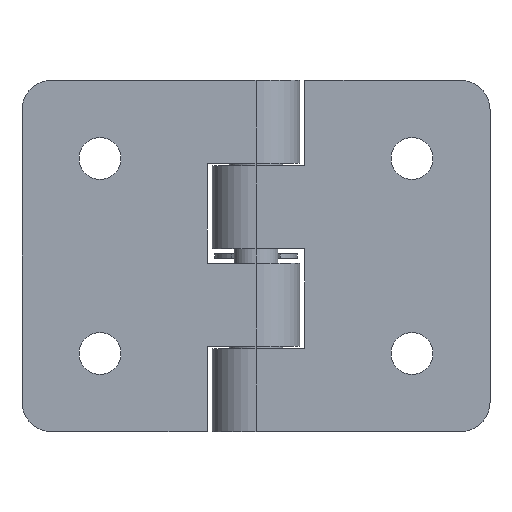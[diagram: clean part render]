
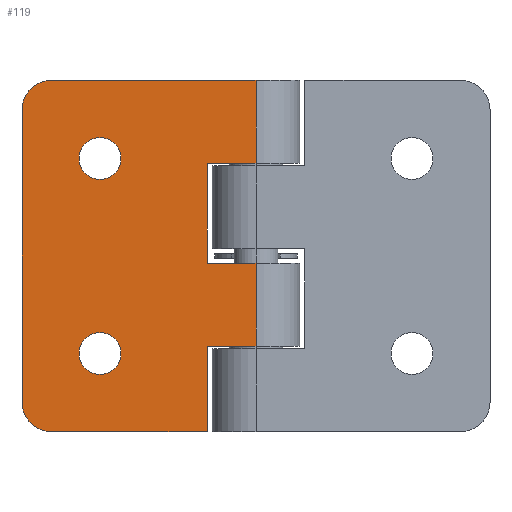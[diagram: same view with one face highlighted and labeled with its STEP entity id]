
A CAD part, front view. The second image highlights one B-rep face of the part: STEP entity #119.
In plain terms, the highlighted planar face has unit normal (0, -1, 0).
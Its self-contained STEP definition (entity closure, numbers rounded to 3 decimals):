
#16 = CARTESIAN_POINT ( 'NONE',  ( 0., -4.5, -9.25 ) ) ;
#18 = VERTEX_POINT ( 'NONE', #1898 ) ;
#19 = VERTEX_POINT ( 'NONE', #29 ) ;
#29 = CARTESIAN_POINT ( 'NONE',  ( -16., -4.5, 7.85 ) ) ;
#35 = DIRECTION ( 'NONE',  ( 0., -1., 0. ) ) ;
#43 = ORIENTED_EDGE ( 'NONE', *, *, #1346, .T. ) ;
#60 = EDGE_CURVE ( 'NONE', #404, #575, #1383, .T. ) ;
#62 = VERTEX_POINT ( 'NONE', #497 ) ;
#82 = VECTOR ( 'NONE', #399, 1000. ) ;
#90 = FACE_OUTER_BOUND ( 'NONE', #1001, .T. ) ;
#94 = DIRECTION ( 'NONE',  ( 0., 0., 1. ) ) ;
#108 = CARTESIAN_POINT ( 'NONE',  ( -5., -4.5, 0. ) ) ;
#111 = VERTEX_POINT ( 'NONE', #662 ) ;
#119 = ADVANCED_FACE ( 'NONE', ( #1735, #1278, #90 ), #1734, .T. ) ;
#136 = DIRECTION ( 'NONE',  ( 0., 1., 0. ) ) ;
#137 = VECTOR ( 'NONE', #269, 1000. ) ;
#143 = AXIS2_PLACEMENT_3D ( 'NONE', #667, #35, #1127 ) ;
#166 = CARTESIAN_POINT ( 'NONE',  ( 0., -4.5, -18. ) ) ;
#170 = VERTEX_POINT ( 'NONE', #1563 ) ;
#183 = EDGE_LOOP ( 'NONE', ( #43, #1233 ) ) ;
#189 = VERTEX_POINT ( 'NONE', #797 ) ;
#199 = EDGE_CURVE ( 'NONE', #189, #1315, #365, .T. ) ;
#203 = AXIS2_PLACEMENT_3D ( 'NONE', #1944, #1031, #94 ) ;
#208 = ORIENTED_EDGE ( 'NONE', *, *, #1294, .F. ) ;
#239 = VECTOR ( 'NONE', #1729, 1000. ) ;
#251 = CARTESIAN_POINT ( 'NONE',  ( 0., -4.5, -0.75 ) ) ;
#269 = DIRECTION ( 'NONE',  ( 1., 0., 0. ) ) ;
#273 = DIRECTION ( 'NONE',  ( 1., 0., 0. ) ) ;
#329 = ORIENTED_EDGE ( 'NONE', *, *, #680, .F. ) ;
#336 = DIRECTION ( 'NONE',  ( 1., 0., 0. ) ) ;
#363 = ORIENTED_EDGE ( 'NONE', *, *, #528, .T. ) ;
#365 = LINE ( 'NONE', #16, #729 ) ;
#368 = EDGE_CURVE ( 'NONE', #19, #111, #1447, .T. ) ;
#392 = CARTESIAN_POINT ( 'NONE',  ( 0., -4.5, -0.75 ) ) ;
#395 = CARTESIAN_POINT ( 'NONE',  ( -24., -4.5, 18. ) ) ;
#397 = LINE ( 'NONE', #580, #1226 ) ;
#399 = DIRECTION ( 'NONE',  ( 0., 0., -1. ) ) ;
#404 = VERTEX_POINT ( 'NONE', #1485 ) ;
#447 = LINE ( 'NONE', #610, #764 ) ;
#451 = DIRECTION ( 'NONE',  ( 0., 0., -1. ) ) ;
#479 = DIRECTION ( 'NONE',  ( -1., 0., 0. ) ) ;
#497 = CARTESIAN_POINT ( 'NONE',  ( -24., -4.5, -15. ) ) ;
#504 = CARTESIAN_POINT ( 'NONE',  ( 0., -4.5, 18. ) ) ;
#528 = EDGE_CURVE ( 'NONE', #18, #893, #810, .T. ) ;
#560 = CIRCLE ( 'NONE', #748, 2.15 ) ;
#575 = VERTEX_POINT ( 'NONE', #1843 ) ;
#580 = CARTESIAN_POINT ( 'NONE',  ( -5., -4.5, 0. ) ) ;
#610 = CARTESIAN_POINT ( 'NONE',  ( 0., -4.5, 18. ) ) ;
#619 = DIRECTION ( 'NONE',  ( -1., 0., 0. ) ) ;
#662 = CARTESIAN_POINT ( 'NONE',  ( -16., -4.5, 12.15 ) ) ;
#665 = VERTEX_POINT ( 'NONE', #1702 ) ;
#667 = CARTESIAN_POINT ( 'NONE',  ( 0., -4.5, 18. ) ) ;
#680 = EDGE_CURVE ( 'NONE', #1221, #665, #1841, .T. ) ;
#686 = AXIS2_PLACEMENT_3D ( 'NONE', #1086, #1093, #1200 ) ;
#705 = CARTESIAN_POINT ( 'NONE',  ( -5., -4.5, 9.5 ) ) ;
#726 = ORIENTED_EDGE ( 'NONE', *, *, #1897, .T. ) ;
#729 = VECTOR ( 'NONE', #336, 1000. ) ;
#748 = AXIS2_PLACEMENT_3D ( 'NONE', #1852, #1860, #1868 ) ;
#757 = VECTOR ( 'NONE', #479, 1000. ) ;
#764 = VECTOR ( 'NONE', #619, 1000. ) ;
#797 = CARTESIAN_POINT ( 'NONE',  ( -5., -4.5, -9.25 ) ) ;
#810 = CIRCLE ( 'NONE', #1340, 2.15 ) ;
#853 = CIRCLE ( 'NONE', #1872, 3. ) ;
#861 = CARTESIAN_POINT ( 'NONE',  ( -24., -4.5, 15. ) ) ;
#869 = VERTEX_POINT ( 'NONE', #861 ) ;
#884 = DIRECTION ( 'NONE',  ( 0., 0., 1. ) ) ;
#893 = VERTEX_POINT ( 'NONE', #1201 ) ;
#917 = LINE ( 'NONE', #395, #82 ) ;
#938 = VECTOR ( 'NONE', #1688, 1000. ) ;
#978 = LINE ( 'NONE', #1845, #938 ) ;
#988 = ORIENTED_EDGE ( 'NONE', *, *, #1106, .F. ) ;
#995 = EDGE_CURVE ( 'NONE', #1802, #575, #1587, .T. ) ;
#1001 = EDGE_LOOP ( 'NONE', ( #1539, #726, #329, #1486, #1866, #208, #988, #1751, #1710, #1257, #1204, #1154 ) ) ;
#1031 = DIRECTION ( 'NONE',  ( 0., 1., 0. ) ) ;
#1073 = CARTESIAN_POINT ( 'NONE',  ( -16., -4.5, -10. ) ) ;
#1086 = CARTESIAN_POINT ( 'NONE',  ( -21., -4.5, -15. ) ) ;
#1093 = DIRECTION ( 'NONE',  ( 0., -1., 0. ) ) ;
#1106 = EDGE_CURVE ( 'NONE', #1462, #1683, #1771, .T. ) ;
#1123 = EDGE_CURVE ( 'NONE', #869, #62, #917, .T. ) ;
#1127 = DIRECTION ( 'NONE',  ( 1., 0., 0. ) ) ;
#1154 = ORIENTED_EDGE ( 'NONE', *, *, #1811, .T. ) ;
#1168 = CARTESIAN_POINT ( 'NONE',  ( -16., -4.5, 10. ) ) ;
#1192 = EDGE_CURVE ( 'NONE', #1462, #1802, #397, .T. ) ;
#1200 = DIRECTION ( 'NONE',  ( 1., 0., 0. ) ) ;
#1201 = CARTESIAN_POINT ( 'NONE',  ( -16., -4.5, -7.85 ) ) ;
#1204 = ORIENTED_EDGE ( 'NONE', *, *, #1874, .T. ) ;
#1213 = DIRECTION ( 'NONE',  ( 0., 1., 0. ) ) ;
#1216 = DIRECTION ( 'NONE',  ( 0., 0., 1. ) ) ;
#1221 = VERTEX_POINT ( 'NONE', #1362 ) ;
#1226 = VECTOR ( 'NONE', #884, 1000. ) ;
#1233 = ORIENTED_EDGE ( 'NONE', *, *, #368, .T. ) ;
#1257 = ORIENTED_EDGE ( 'NONE', *, *, #60, .F. ) ;
#1278 = FACE_BOUND ( 'NONE', #1337, .T. ) ;
#1290 = EDGE_CURVE ( 'NONE', #893, #18, #560, .T. ) ;
#1294 = EDGE_CURVE ( 'NONE', #1683, #1315, #978, .T. ) ;
#1315 = VERTEX_POINT ( 'NONE', #1957 ) ;
#1324 = CARTESIAN_POINT ( 'NONE',  ( -21., -4.5, 15. ) ) ;
#1337 = EDGE_LOOP ( 'NONE', ( #1574, #363 ) ) ;
#1340 = AXIS2_PLACEMENT_3D ( 'NONE', #1073, #136, #1216 ) ;
#1346 = EDGE_CURVE ( 'NONE', #111, #19, #1698, .T. ) ;
#1358 = AXIS2_PLACEMENT_3D ( 'NONE', #1168, #1213, #1464 ) ;
#1362 = CARTESIAN_POINT ( 'NONE',  ( -5., -4.5, -18. ) ) ;
#1383 = LINE ( 'NONE', #504, #239 ) ;
#1447 = CIRCLE ( 'NONE', #203, 2.15 ) ;
#1457 = DIRECTION ( 'NONE',  ( 0., -1., 0. ) ) ;
#1462 = VERTEX_POINT ( 'NONE', #1939 ) ;
#1464 = DIRECTION ( 'NONE',  ( 0., 0., 1. ) ) ;
#1485 = CARTESIAN_POINT ( 'NONE',  ( 0., -4.5, 18. ) ) ;
#1486 = ORIENTED_EDGE ( 'NONE', *, *, #1858, .F. ) ;
#1507 = VECTOR ( 'NONE', #273, 1000. ) ;
#1523 = CIRCLE ( 'NONE', #686, 3. ) ;
#1539 = ORIENTED_EDGE ( 'NONE', *, *, #1123, .T. ) ;
#1563 = CARTESIAN_POINT ( 'NONE',  ( -21., -4.5, 18. ) ) ;
#1565 = LINE ( 'NONE', #108, #1608 ) ;
#1574 = ORIENTED_EDGE ( 'NONE', *, *, #1290, .T. ) ;
#1587 = LINE ( 'NONE', #1815, #1507 ) ;
#1608 = VECTOR ( 'NONE', #451, 1000. ) ;
#1629 = DIRECTION ( 'NONE',  ( 1., 0., 0. ) ) ;
#1683 = VERTEX_POINT ( 'NONE', #392 ) ;
#1688 = DIRECTION ( 'NONE',  ( 0., 0., -1. ) ) ;
#1698 = CIRCLE ( 'NONE', #1358, 2.15 ) ;
#1702 = CARTESIAN_POINT ( 'NONE',  ( -21., -4.5, -18. ) ) ;
#1710 = ORIENTED_EDGE ( 'NONE', *, *, #995, .T. ) ;
#1729 = DIRECTION ( 'NONE',  ( 0., 0., -1. ) ) ;
#1734 = PLANE ( 'NONE',  #143 ) ;
#1735 = FACE_BOUND ( 'NONE', #183, .T. ) ;
#1751 = ORIENTED_EDGE ( 'NONE', *, *, #1192, .T. ) ;
#1771 = LINE ( 'NONE', #251, #137 ) ;
#1802 = VERTEX_POINT ( 'NONE', #705 ) ;
#1811 = EDGE_CURVE ( 'NONE', #170, #869, #853, .T. ) ;
#1815 = CARTESIAN_POINT ( 'NONE',  ( 0., -4.5, 9.5 ) ) ;
#1841 = LINE ( 'NONE', #166, #757 ) ;
#1843 = CARTESIAN_POINT ( 'NONE',  ( 0., -4.5, 9.5 ) ) ;
#1845 = CARTESIAN_POINT ( 'NONE',  ( 0., -4.5, 18. ) ) ;
#1852 = CARTESIAN_POINT ( 'NONE',  ( -16., -4.5, -10. ) ) ;
#1858 = EDGE_CURVE ( 'NONE', #189, #1221, #1565, .T. ) ;
#1860 = DIRECTION ( 'NONE',  ( 0., 1., 0. ) ) ;
#1866 = ORIENTED_EDGE ( 'NONE', *, *, #199, .T. ) ;
#1868 = DIRECTION ( 'NONE',  ( 0., 0., 1. ) ) ;
#1872 = AXIS2_PLACEMENT_3D ( 'NONE', #1324, #1457, #1629 ) ;
#1874 = EDGE_CURVE ( 'NONE', #404, #170, #447, .T. ) ;
#1897 = EDGE_CURVE ( 'NONE', #62, #665, #1523, .T. ) ;
#1898 = CARTESIAN_POINT ( 'NONE',  ( -16., -4.5, -12.15 ) ) ;
#1939 = CARTESIAN_POINT ( 'NONE',  ( -5., -4.5, -0.75 ) ) ;
#1944 = CARTESIAN_POINT ( 'NONE',  ( -16., -4.5, 10. ) ) ;
#1957 = CARTESIAN_POINT ( 'NONE',  ( 0., -4.5, -9.25 ) ) ;
